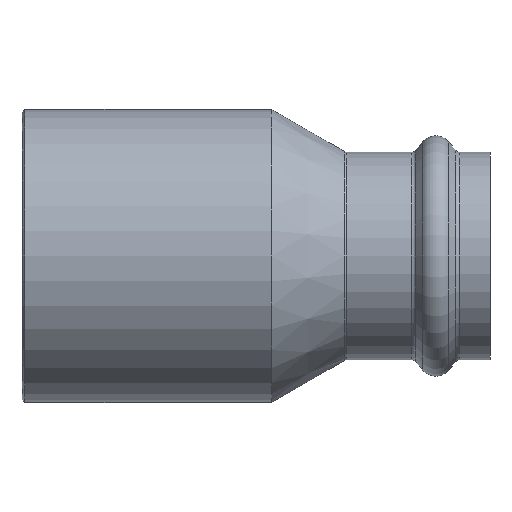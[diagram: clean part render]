
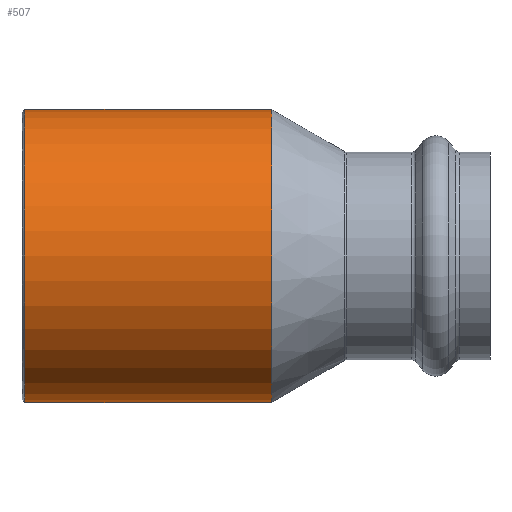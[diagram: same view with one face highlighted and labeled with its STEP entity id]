
A CAD part, front view. The second image highlights one B-rep face of the part: STEP entity #507.
In plain terms, the highlighted cylindrical face has radius 27 mm (diameter 54 mm), a partial arc.
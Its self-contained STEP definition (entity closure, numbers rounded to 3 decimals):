
#37 = DIRECTION ( 'NONE',  ( -1., 0., 0. ) ) ;
#55 = CARTESIAN_POINT ( 'NONE',  ( 46., 0., 27. ) ) ;
#63 = CARTESIAN_POINT ( 'NONE',  ( 46., 0., 0. ) ) ;
#87 = VERTEX_POINT ( 'NONE', #465 ) ;
#153 = CARTESIAN_POINT ( 'NONE',  ( -4.079, 0., 0. ) ) ;
#190 = CYLINDRICAL_SURFACE ( 'NONE', #875, 27. ) ;
#195 = DIRECTION ( 'NONE',  ( 0., 0., 1. ) ) ;
#244 = VERTEX_POINT ( 'NONE', #55 ) ;
#281 = CARTESIAN_POINT ( 'NONE',  ( 0.5, 0., -27. ) ) ;
#364 = VECTOR ( 'NONE', #37, 1000. ) ;
#387 = ORIENTED_EDGE ( 'NONE', *, *, #1137, .T. ) ;
#390 = DIRECTION ( 'NONE',  ( -1., 0., 0. ) ) ;
#465 = CARTESIAN_POINT ( 'NONE',  ( 0.5, 0., 27. ) ) ;
#507 = ADVANCED_FACE ( 'NONE', ( #524 ), #190, .T. ) ;
#520 = AXIS2_PLACEMENT_3D ( 'NONE', #622, #630, #648 ) ;
#524 = FACE_OUTER_BOUND ( 'NONE', #1111, .T. ) ;
#529 = DIRECTION ( 'NONE',  ( -1., 0., 0. ) ) ;
#562 = ORIENTED_EDGE ( 'NONE', *, *, #833, .F. ) ;
#601 = ORIENTED_EDGE ( 'NONE', *, *, #858, .T. ) ;
#622 = CARTESIAN_POINT ( 'NONE',  ( 0.5, 0., 0. ) ) ;
#630 = DIRECTION ( 'NONE',  ( -1., 0., 0. ) ) ;
#648 = DIRECTION ( 'NONE',  ( 0., 0., 1. ) ) ;
#658 = VECTOR ( 'NONE', #1028, 1000. ) ;
#736 = EDGE_CURVE ( 'NONE', #1274, #87, #1116, .T. ) ;
#815 = DIRECTION ( 'NONE',  ( 0., 0., 1. ) ) ;
#833 = EDGE_CURVE ( 'NONE', #915, #1274, #869, .T. ) ;
#836 = CIRCLE ( 'NONE', #1143, 27. ) ;
#852 = CARTESIAN_POINT ( 'NONE',  ( -4.079, 0., -27. ) ) ;
#858 = EDGE_CURVE ( 'NONE', #244, #87, #1150, .T. ) ;
#869 = LINE ( 'NONE', #852, #658 ) ;
#875 = AXIS2_PLACEMENT_3D ( 'NONE', #153, #529, #195 ) ;
#915 = VERTEX_POINT ( 'NONE', #965 ) ;
#923 = CARTESIAN_POINT ( 'NONE',  ( -4.079, 0., 27. ) ) ;
#965 = CARTESIAN_POINT ( 'NONE',  ( 46., 0., -27. ) ) ;
#1006 = ORIENTED_EDGE ( 'NONE', *, *, #736, .F. ) ;
#1028 = DIRECTION ( 'NONE',  ( -1., 0., 0. ) ) ;
#1111 = EDGE_LOOP ( 'NONE', ( #562, #387, #601, #1006 ) ) ;
#1116 = CIRCLE ( 'NONE', #520, 27. ) ;
#1137 = EDGE_CURVE ( 'NONE', #915, #244, #836, .T. ) ;
#1143 = AXIS2_PLACEMENT_3D ( 'NONE', #63, #390, #815 ) ;
#1150 = LINE ( 'NONE', #923, #364 ) ;
#1274 = VERTEX_POINT ( 'NONE', #281 ) ;
